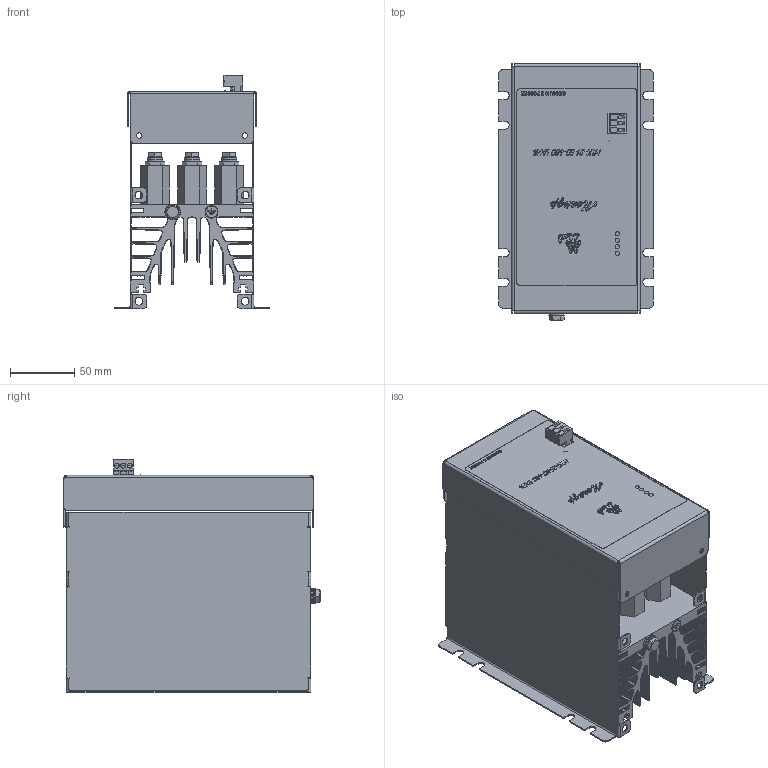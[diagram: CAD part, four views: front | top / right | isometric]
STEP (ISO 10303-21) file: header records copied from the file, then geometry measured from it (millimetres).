
FILE_DESCRIPTION(('STEP AP203'), '1');
FILE_NAME('ÌÒÊ 21-50-480 ÓÕË4', '2025-05-20T07:13:47', (''), ('ÎÎÎ "Ìåàíäð"'), 'C3D Converter', 'C3D Toolkit', '');
FILE_SCHEMA(('CONFIG_CONTROL_DESIGN'));
Length unit declared in the file: millimetre
Products named in the file (10): МТК 21-50-480 УХЛ4; МТК 21; Болт М6х14; 21-50-480; МР 83.0134.01; -МТК-21-50; Клемма 2EDGK-5.08-x3; МР 35.0031.20; .03P; -02P
Assembly tree (15 placements, depth 4):
  МТК 21-50-480 УХЛ4
    МТК 21
    Болт М6х14  x7
    21-50-480
      МР 83.0134.01
      -МТК-21-50
      Клемма 2EDGK-5.08-x3
      МР 35.0031.20
        .03P
        -02P
Bounding box: 120 x 199.21 x 181.05 mm (x, y, z)
Volume: 630818.3 mm3; surface area: 511943.5 mm2
Topology: 13 solids, 13 shells, 6841 faces, 19952 edges, 13259 vertices
Faces by surface type: plane 3707, cylinder 2104, extrusion 930, bspline 38, torus 35, cone 26, sphere 1
Full cylindrical faces by diameter (mm): 3 x3, 3.1 x3, 3.3 x4, 3.9 x3, 4.2 x4, 5 x8, 6 x13, 6.1 x12, 6.4 x7, 8.9 x7, 9.1 x1, 10.01 x1, 12 x7
Entity records: 296555 total; most frequent: CARTESIAN_POINT 69226, ORIENTED_EDGE 38232, DIRECTION 33485, EDGE_CURVE 19116, VECTOR 14017, LINE 13087, VERTEX_POINT 12736, AXIS2_PLACEMENT_3D 9734
